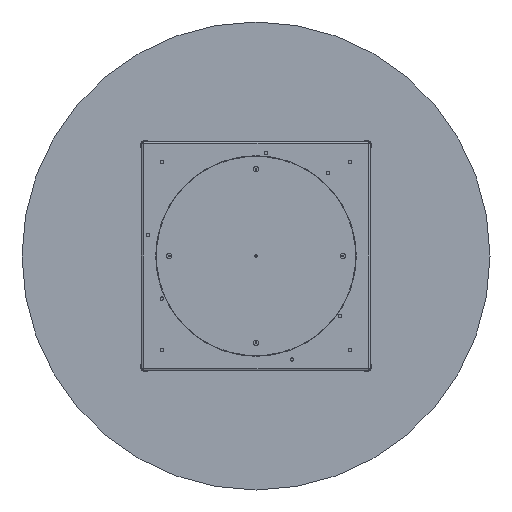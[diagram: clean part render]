
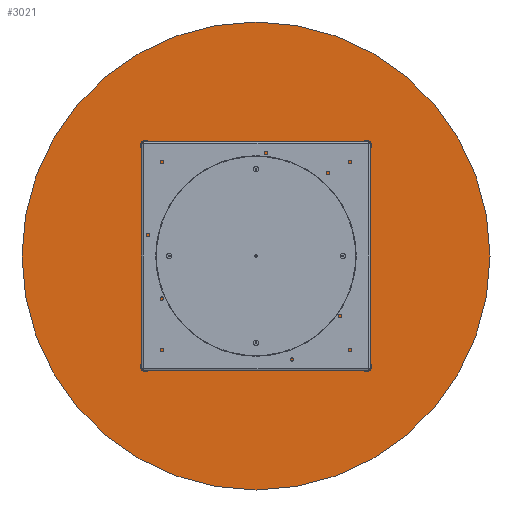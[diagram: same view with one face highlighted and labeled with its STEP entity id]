
A CAD part, front view. The second image highlights one B-rep face of the part: STEP entity #3021.
In plain terms, the highlighted planar face has unit normal (0, -1, 0).
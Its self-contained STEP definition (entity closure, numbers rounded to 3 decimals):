
#10 = CARTESIAN_POINT ( 'NONE',  ( 0., 0., 700. ) ) ;
#760 = DIRECTION ( 'NONE',  ( 0., -1., 0. ) ) ;
#1026 = EDGE_CURVE ( 'NONE', #5799, #9978, #7854, .T. ) ;
#1075 = AXIS2_PLACEMENT_3D ( 'NONE', #5139, #760, #12648 ) ;
#2419 = ORIENTED_EDGE ( 'NONE', *, *, #9918, .T. ) ;
#3021 = ADVANCED_FACE ( 'NONE', ( #4788 ), #6979, .T. ) ;
#3734 = DIRECTION ( 'NONE',  ( 0., -1., 0. ) ) ;
#4319 = EDGE_LOOP ( 'NONE', ( #2419, #6259 ) ) ;
#4788 = FACE_OUTER_BOUND ( 'NONE', #4319, .T. ) ;
#4857 = AXIS2_PLACEMENT_3D ( 'NONE', #13492, #11291, #12433 ) ;
#5139 = CARTESIAN_POINT ( 'NONE',  ( 0., 0., 0. ) ) ;
#5799 = VERTEX_POINT ( 'NONE', #10 ) ;
#5963 = CIRCLE ( 'NONE', #12054, 700. ) ;
#6259 = ORIENTED_EDGE ( 'NONE', *, *, #1026, .T. ) ;
#6979 = PLANE ( 'NONE',  #4857 ) ;
#7854 = CIRCLE ( 'NONE', #1075, 700. ) ;
#8050 = CARTESIAN_POINT ( 'NONE',  ( 0., 0., 0. ) ) ;
#9918 = EDGE_CURVE ( 'NONE', #9978, #5799, #5963, .T. ) ;
#9978 = VERTEX_POINT ( 'NONE', #11149 ) ;
#11149 = CARTESIAN_POINT ( 'NONE',  ( 0., 0., -700. ) ) ;
#11291 = DIRECTION ( 'NONE',  ( 0., -1., 0. ) ) ;
#12054 = AXIS2_PLACEMENT_3D ( 'NONE', #8050, #3734, #13637 ) ;
#12433 = DIRECTION ( 'NONE',  ( 0., 0., -1. ) ) ;
#12648 = DIRECTION ( 'NONE',  ( 0., 0., -1. ) ) ;
#13492 = CARTESIAN_POINT ( 'NONE',  ( 0., 0., 0. ) ) ;
#13637 = DIRECTION ( 'NONE',  ( 0., 0., -1. ) ) ;
